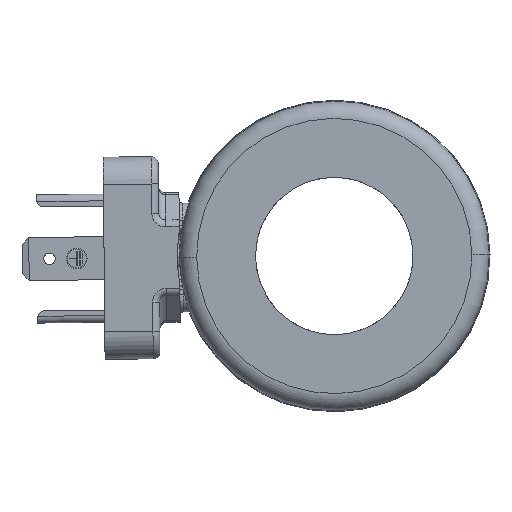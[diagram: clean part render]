
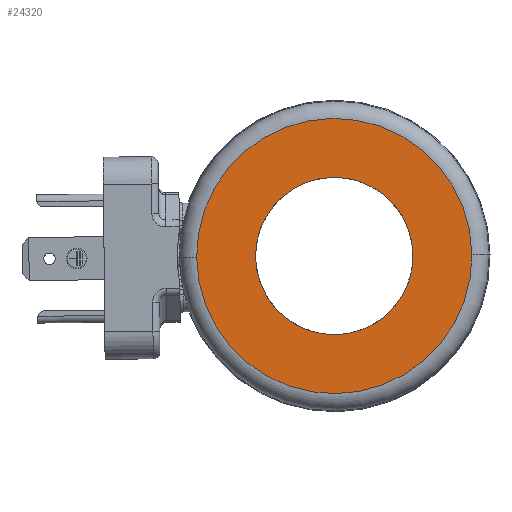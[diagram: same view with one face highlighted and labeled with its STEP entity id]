
A CAD part, left-side view. The second image highlights one B-rep face of the part: STEP entity #24320.
In plain terms, the highlighted planar face has unit normal (-1, 0, 0).
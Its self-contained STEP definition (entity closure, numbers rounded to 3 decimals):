
#24 = VERTEX_POINT ( 'NONE', #9018 ) ;
#1319 = CIRCLE ( 'NONE', #21730, 11.525 ) ;
#1350 = EDGE_CURVE ( 'NONE', #24, #15344, #26809, .T. ) ;
#2240 = ORIENTED_EDGE ( 'NONE', *, *, #1350, .F. ) ;
#2487 = DIRECTION ( 'NONE',  ( 0., -1., 0.01 ) ) ;
#4533 = EDGE_CURVE ( 'NONE', #15344, #24, #11454, .T. ) ;
#5048 = DIRECTION ( 'NONE',  ( -1., 0., 0. ) ) ;
#5209 = FACE_OUTER_BOUND ( 'NONE', #14978, .T. ) ;
#5287 = CARTESIAN_POINT ( 'NONE',  ( -50.1, 0., 0. ) ) ;
#6750 = AXIS2_PLACEMENT_3D ( 'NONE', #18000, #17630, #17396 ) ;
#8696 = EDGE_CURVE ( 'NONE', #29721, #18651, #1319, .T. ) ;
#9018 = CARTESIAN_POINT ( 'NONE',  ( -50.1, 20.149, -0.194 ) ) ;
#10244 = CIRCLE ( 'NONE', #23188, 11.525 ) ;
#10401 = ORIENTED_EDGE ( 'NONE', *, *, #4533, .F. ) ;
#11454 = CIRCLE ( 'NONE', #19968, 20.15 ) ;
#12569 = AXIS2_PLACEMENT_3D ( 'NONE', #34741, #34676, #34672 ) ;
#14307 = DIRECTION ( 'NONE',  ( 0., 1., -0.01 ) ) ;
#14353 = DIRECTION ( 'NONE',  ( 1., 0., 0. ) ) ;
#14361 = CARTESIAN_POINT ( 'NONE',  ( -50.1, 0., 0. ) ) ;
#14731 = ORIENTED_EDGE ( 'NONE', *, *, #30431, .F. ) ;
#14978 = EDGE_LOOP ( 'NONE', ( #2240, #10401 ) ) ;
#15344 = VERTEX_POINT ( 'NONE', #31488 ) ;
#15765 = ORIENTED_EDGE ( 'NONE', *, *, #8696, .F. ) ;
#17396 = DIRECTION ( 'NONE',  ( 0., 1., -0.01 ) ) ;
#17630 = DIRECTION ( 'NONE',  ( 1., 0., 0. ) ) ;
#17902 = EDGE_LOOP ( 'NONE', ( #15765, #14731 ) ) ;
#18000 = CARTESIAN_POINT ( 'NONE',  ( -50.1, -16.887, 0.163 ) ) ;
#18651 = VERTEX_POINT ( 'NONE', #35162 ) ;
#19402 = PLANE ( 'NONE',  #6750 ) ;
#19968 = AXIS2_PLACEMENT_3D ( 'NONE', #14361, #14353, #14307 ) ;
#21730 = AXIS2_PLACEMENT_3D ( 'NONE', #5287, #5048, #2487 ) ;
#23188 = AXIS2_PLACEMENT_3D ( 'NONE', #33347, #33304, #33253 ) ;
#24320 = ADVANCED_FACE ( 'NONE', ( #35316, #5209 ), #19402, .F. ) ;
#26809 = CIRCLE ( 'NONE', #12569, 20.15 ) ;
#29234 = CARTESIAN_POINT ( 'NONE',  ( -50.1, -11.524, 0.111 ) ) ;
#29721 = VERTEX_POINT ( 'NONE', #29234 ) ;
#30431 = EDGE_CURVE ( 'NONE', #18651, #29721, #10244, .T. ) ;
#31488 = CARTESIAN_POINT ( 'NONE',  ( -50.1, -20.149, 0.194 ) ) ;
#33253 = DIRECTION ( 'NONE',  ( 0., -1., 0.01 ) ) ;
#33304 = DIRECTION ( 'NONE',  ( -1., 0., 0. ) ) ;
#33347 = CARTESIAN_POINT ( 'NONE',  ( -50.1, 0., 0. ) ) ;
#34672 = DIRECTION ( 'NONE',  ( 0., 1., -0.01 ) ) ;
#34676 = DIRECTION ( 'NONE',  ( 1., 0., 0. ) ) ;
#34741 = CARTESIAN_POINT ( 'NONE',  ( -50.1, 0., 0. ) ) ;
#35162 = CARTESIAN_POINT ( 'NONE',  ( -50.1, 11.524, -0.111 ) ) ;
#35316 = FACE_BOUND ( 'NONE', #17902, .T. ) ;
